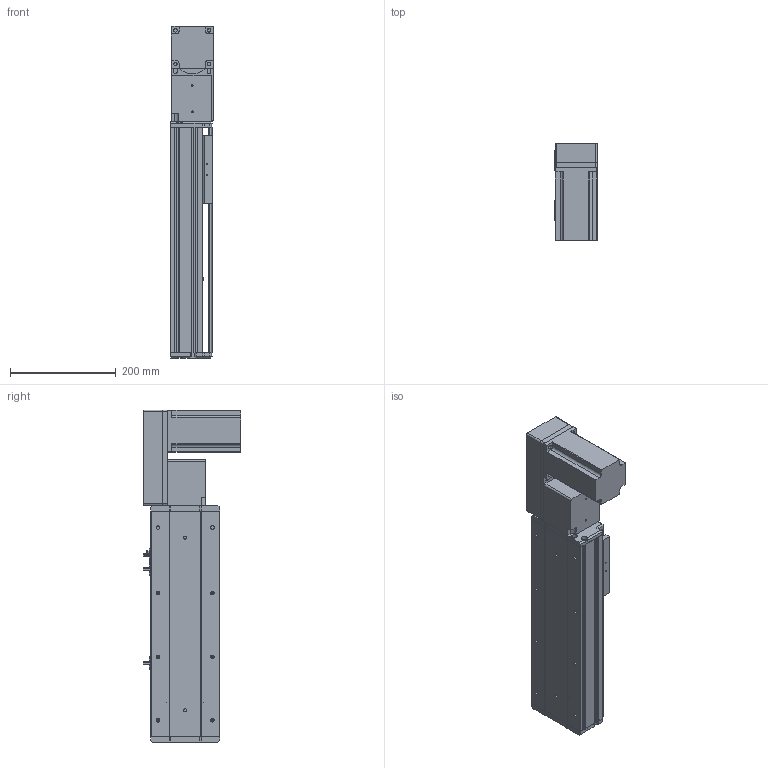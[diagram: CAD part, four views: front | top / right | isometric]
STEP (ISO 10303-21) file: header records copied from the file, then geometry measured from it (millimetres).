
FILE_DESCRIPTION (( 'STEP AP214' ), '1' );
FILE_NAME ('KSD130B-S200-MRB-CM.STEP', '2019-09-21T06:26:30', ( '微软用户' ), ( '微软中国' ), 'SwSTEP 2.0', 'SolidWorks 2014', '' );
FILE_SCHEMA (( 'AUTOMOTIVE_DESIGN' ));
Length unit declared in the file: millimetre
Products named in the file (12): 130宽盖板半封闭同步带-200行程; 130宽马达安装板同步带右-改镜向_默认<按加工>; 130宽马达安装板同步带半封闭; 130宽同步带安装座半封闭; 130宽端盖同步带半封闭; 130宽底板半封闭同步带-200行程; KSD130B-S200-MRB-CM; 台达ECMA－C20807AS伺服电机; 130宽模组保护罩上下左右折-同步带; 130宽模组马达安装板连板左右折同步带; 覜茼え100遵圉猾敕; U倰嫖萇EEㄜSX672
Assembly tree (13 placements, depth 2):
  KSD130B-S200-MRB-CM
    130宽底板半封闭同步带-200行程
    130宽端盖同步带半封闭
    130宽同步带安装座半封闭
    130宽马达安装板同步带半封闭
    130宽马达安装板同步带右-改镜向_默认<按加工>
    130宽盖板半封闭同步带-200行程
    U倰嫖萇EEㄜSX672  x3
    覜茼え100遵圉猾敕
    130宽模组马达安装板连板左右折同步带
    130宽模组保护罩上下左右折-同步带
    台达ECMA－C20807AS伺服电机
Bounding box: 81 x 184.8 x 627 mm (x, y, z)
Volume: 2830386.9 mm3; surface area: 699552.9 mm2
Topology: 14 solids, 14 shells, 1337 faces, 3721 edges, 2401 vertices
Faces by surface type: cylinder 616, plane 598, cone 123
Entity records: 41899 total; most frequent: CARTESIAN_POINT 7302, DIRECTION 6467, ORIENTED_EDGE 6182, EDGE_CURVE 3091, AXIS2_PLACEMENT_3D 2326, VERTEX_POINT 2025, VECTOR 1815, LINE 1815
